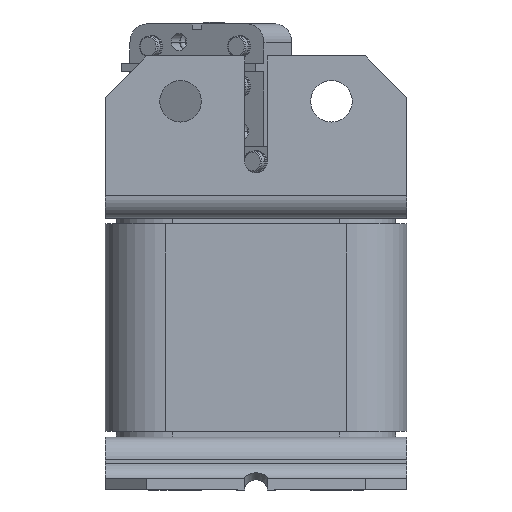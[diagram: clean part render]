
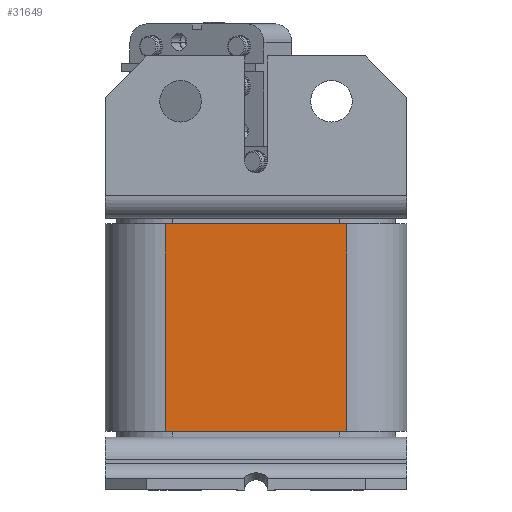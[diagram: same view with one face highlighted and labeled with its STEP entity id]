
A CAD part, front view. The second image highlights one B-rep face of the part: STEP entity #31649.
In plain terms, the highlighted planar face has unit normal (0, -1, 0).
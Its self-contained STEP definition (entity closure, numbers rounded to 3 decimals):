
#1527 = EDGE_LOOP ( 'NONE', ( #26903, #15306, #9167, #10644 ) ) ;
#1720 = VERTEX_POINT ( 'NONE', #13234 ) ;
#3271 = DIRECTION ( 'NONE',  ( 1., 0., 0. ) ) ;
#4717 = VERTEX_POINT ( 'NONE', #23613 ) ;
#5241 = VECTOR ( 'NONE', #20724, 1000. ) ;
#6033 = LINE ( 'NONE', #31342, #27118 ) ;
#8277 = LINE ( 'NONE', #30831, #12997 ) ;
#9167 = ORIENTED_EDGE ( 'NONE', *, *, #10517, .F. ) ;
#10517 = EDGE_CURVE ( 'NONE', #11346, #1720, #8277, .T. ) ;
#10644 = ORIENTED_EDGE ( 'NONE', *, *, #12269, .T. ) ;
#10724 = VERTEX_POINT ( 'NONE', #23783 ) ;
#11346 = VERTEX_POINT ( 'NONE', #35086 ) ;
#12269 = EDGE_CURVE ( 'NONE', #11346, #4717, #27850, .T. ) ;
#12997 = VECTOR ( 'NONE', #3271, 1000. ) ;
#13234 = CARTESIAN_POINT ( 'NONE',  ( -5.514, -38.958, 27.5 ) ) ;
#14794 = DIRECTION ( 'NONE',  ( 0., 0., 1. ) ) ;
#15306 = ORIENTED_EDGE ( 'NONE', *, *, #28319, .T. ) ;
#15559 = LINE ( 'NONE', #31596, #5241 ) ;
#17789 = DIRECTION ( 'NONE',  ( 0., 0., -1. ) ) ;
#18521 = PLANE ( 'NONE',  #34655 ) ;
#18881 = DIRECTION ( 'NONE',  ( 0., -1., 0. ) ) ;
#20724 = DIRECTION ( 'NONE',  ( 1., 0., 0. ) ) ;
#21689 = DIRECTION ( 'NONE',  ( 0., 0., -1. ) ) ;
#23613 = CARTESIAN_POINT ( 'NONE',  ( -53.514, -38.958, -27.5 ) ) ;
#23783 = CARTESIAN_POINT ( 'NONE',  ( -5.514, -38.958, -27.5 ) ) ;
#24197 = FACE_OUTER_BOUND ( 'NONE', #1527, .T. ) ;
#26903 = ORIENTED_EDGE ( 'NONE', *, *, #31511, .T. ) ;
#27118 = VECTOR ( 'NONE', #14794, 1000. ) ;
#27850 = LINE ( 'NONE', #28862, #31763 ) ;
#28319 = EDGE_CURVE ( 'NONE', #10724, #1720, #6033, .T. ) ;
#28862 = CARTESIAN_POINT ( 'NONE',  ( -53.514, -38.958, -27.5 ) ) ;
#30831 = CARTESIAN_POINT ( 'NONE',  ( -69.514, -38.958, 27.5 ) ) ;
#31342 = CARTESIAN_POINT ( 'NONE',  ( -5.514, -38.958, -27.5 ) ) ;
#31511 = EDGE_CURVE ( 'NONE', #4717, #10724, #15559, .T. ) ;
#31596 = CARTESIAN_POINT ( 'NONE',  ( -69.514, -38.958, -27.5 ) ) ;
#31649 = ADVANCED_FACE ( 'NONE', ( #24197 ), #18521, .T. ) ;
#31763 = VECTOR ( 'NONE', #17789, 1000. ) ;
#32417 = CARTESIAN_POINT ( 'NONE',  ( -69.514, -38.958, -27.5 ) ) ;
#34655 = AXIS2_PLACEMENT_3D ( 'NONE', #32417, #18881, #21689 ) ;
#35086 = CARTESIAN_POINT ( 'NONE',  ( -53.514, -38.958, 27.5 ) ) ;
